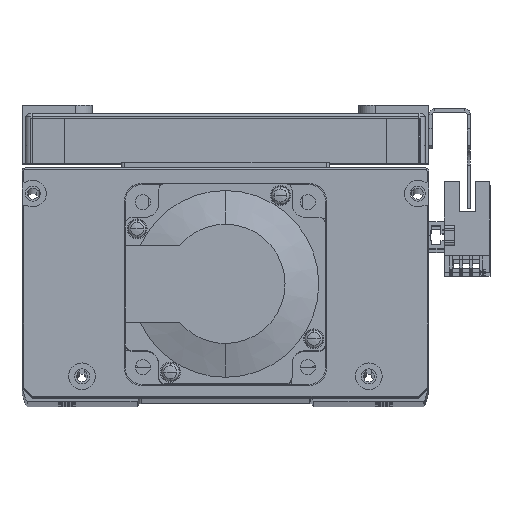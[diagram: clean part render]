
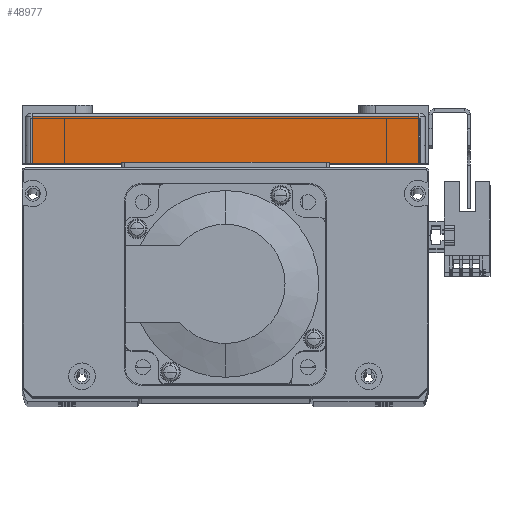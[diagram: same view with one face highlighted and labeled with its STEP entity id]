
A CAD part, top view. The second image highlights one B-rep face of the part: STEP entity #48977.
In plain terms, the highlighted planar face has unit normal (0, 0, 1) as drawn and (1, 0, 0) by its records, which use the part's own axes.
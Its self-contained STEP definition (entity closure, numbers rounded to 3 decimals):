
#1576 = EDGE_CURVE ( 'NONE', #29548, #29376, #52124, .T. ) ;
#1611 = EDGE_CURVE ( 'NONE', #29484, #29522, #31824, .T. ) ;
#1612 = EDGE_CURVE ( 'NONE', #29376, #29484, #31849, .T. ) ;
#1648 = EDGE_CURVE ( 'NONE', #29522, #29548, #32016, .T. ) ;
#6169 = ORIENTED_EDGE ( 'NONE', *, *, #1612, .T. ) ;
#6172 = ORIENTED_EDGE ( 'NONE', *, *, #1576, .T. ) ;
#6193 = ORIENTED_EDGE ( 'NONE', *, *, #1648, .T. ) ;
#6230 = ORIENTED_EDGE ( 'NONE', *, *, #1611, .T. ) ;
#16671 = FACE_OUTER_BOUND ( 'NONE', #21645, .T. ) ;
#20086 = CARTESIAN_POINT ( 'NONE',  ( 82.5, 14., -58. ) ) ;
#20157 = CARTESIAN_POINT ( 'NONE',  ( 82.5, 0., 58. ) ) ;
#20172 = CARTESIAN_POINT ( 'NONE',  ( 82.5, 0., -58. ) ) ;
#20201 = CARTESIAN_POINT ( 'NONE',  ( 82.5, 14., 58. ) ) ;
#21645 = EDGE_LOOP ( 'NONE', ( #6172, #6169, #6230, #6193 ) ) ;
#29376 = VERTEX_POINT ( 'NONE', #20086 ) ;
#29484 = VERTEX_POINT ( 'NONE', #20201 ) ;
#29522 = VERTEX_POINT ( 'NONE', #20157 ) ;
#29548 = VERTEX_POINT ( 'NONE', #20172 ) ;
#31812 = VECTOR ( 'NONE', #44976, 1000. ) ;
#31824 = LINE ( 'NONE', #44975, #31812 ) ;
#31830 = VECTOR ( 'NONE', #44972, 1000. ) ;
#31849 = LINE ( 'NONE', #44977, #31830 ) ;
#31903 = VECTOR ( 'NONE', #45058, 1000. ) ;
#32016 = LINE ( 'NONE', #45034, #31903 ) ;
#44901 = DIRECTION ( 'NONE',  ( 0., 1., 0. ) ) ;
#44916 = CARTESIAN_POINT ( 'NONE',  ( 82.5, 15., -58. ) ) ;
#44972 = DIRECTION ( 'NONE',  ( 0., 0., 1. ) ) ;
#44975 = CARTESIAN_POINT ( 'NONE',  ( 82.5, 15., 58. ) ) ;
#44976 = DIRECTION ( 'NONE',  ( 0., -1., 0. ) ) ;
#44977 = CARTESIAN_POINT ( 'NONE',  ( 82.5, 14., 58. ) ) ;
#45034 = CARTESIAN_POINT ( 'NONE',  ( 82.5, 0., -60. ) ) ;
#45058 = DIRECTION ( 'NONE',  ( 0., 0., -1. ) ) ;
#45788 = AXIS2_PLACEMENT_3D ( 'NONE', #55078, #55083, #55088 ) ;
#48977 = ADVANCED_FACE ( 'NONE', ( #16671 ), #55066, .F. ) ;
#52072 = VECTOR ( 'NONE', #44901, 1000. ) ;
#52124 = LINE ( 'NONE', #44916, #52072 ) ;
#55066 = PLANE ( 'NONE',  #45788 ) ;
#55078 = CARTESIAN_POINT ( 'NONE',  ( 82.5, 15., -60. ) ) ;
#55083 = DIRECTION ( 'NONE',  ( -1., 0., 0. ) ) ;
#55088 = DIRECTION ( 'NONE',  ( 0., 0., 1. ) ) ;
